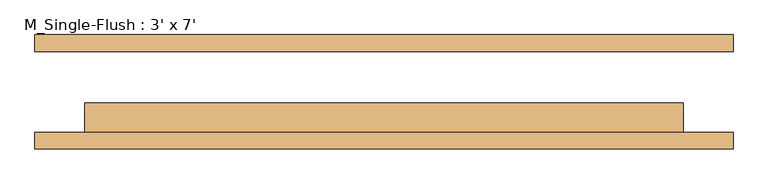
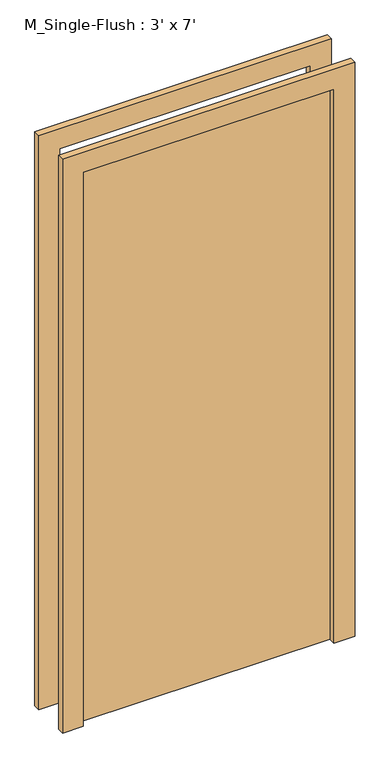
"""IFC4 building model written with IfcOpenShell, lengths in millimetres: door geometry, M_Single-Flush : 3' x 7'."""

from ifc_helpers import new_model, si_unit, frame, origin, origin_with_axes, place, context, project, spatial, polyline, outline, extrude, source, transform, mapped, element, save


def m_single_flush_3_x_7_38056b6e(model_context):
    return source(origin(), model_context, "Body", "SweptSolid", [
        extrude(outline(polyline([(2209.8, -533.4), (0.0, -533.4), (0.0, -457.2), (2133.6, -457.2), (2133.6, 457.2), (0.0, 457.2), (0.0, 533.4), (2209.8, 533.4), (2209.8, -533.4)])), frame((0.0, -87.3125, 0.0), z_axis=(0.0, 1.0, 0.0), x_axis=(0.0, 0.0, 1.0)), (0.0, 0.0, 1.0), 25.4),
        extrude(outline(polyline([(2209.8, 533.4), (2209.8, -533.4), (0.0, -533.4), (0.0, -457.2), (2133.6, -457.2), (2133.6, 457.2), (0.0, 457.2), (0.0, 533.4), (2209.8, 533.4)])), frame((0.0, 61.9125, 0.0), z_axis=(0.0, 1.0, 0.0), x_axis=(0.0, 0.0, 1.0)), (0.0, 0.0, 1.0), 25.4),
        extrude(outline(polyline([(457.2, -17.4625), (457.2, -61.9125), (-457.2, -61.9125), (-457.2, -17.4625), (457.2, -17.4625)])), origin_with_axes(), (0.0, 0.0, 1.0), 2133.6),
    ])


if __name__ == "__main__":
    model = new_model("IFC4")
    model_context = context("Model", 3, world=origin())
    ifc_project = project(units=[si_unit("LENGTHUNIT", "METRE", prefix="MILLI")], contexts=[model_context])
    site = spatial("IfcSite", under=ifc_project)
    building = spatial("IfcBuilding", under=site)
    placement = place(None, origin())
    m_single_flush_3_x_7_shape = m_single_flush_3_x_7_38056b6e(model_context)
    element("IfcDoor", 1, ObjectType="M_Single-Flush : 3' x 7'", at=placement, inside=building, context=model_context, shape_type="MappedRepresentation", body=[
        mapped(m_single_flush_3_x_7_shape, transform((0.0, 0.0, 0.0), x_axis=(1.0, 0.0, 0.0), y_axis=(0.0, 1.0, 0.0), z_axis=(0.0, 0.0, 1.0))),
    ])
    save(model, "model.ifc")
